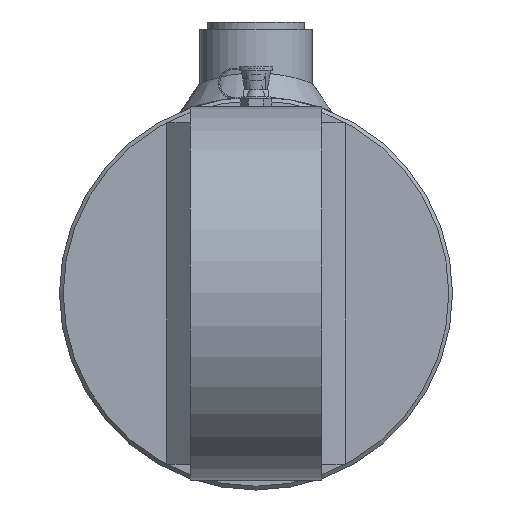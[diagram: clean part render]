
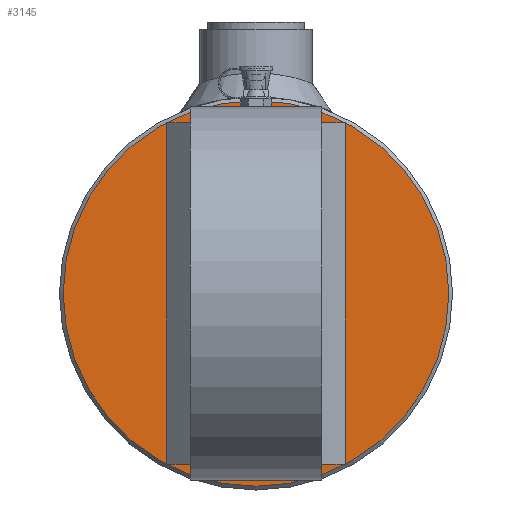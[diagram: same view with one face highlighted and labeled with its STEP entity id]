
A CAD part, left-side view. The second image highlights one B-rep face of the part: STEP entity #3145.
In plain terms, the highlighted planar face has unit normal (-1, 0, 0).
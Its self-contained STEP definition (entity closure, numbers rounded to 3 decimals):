
#3145 = ADVANCED_FACE( '', ( #7955 ), #7956, .T. );
#7955 = FACE_OUTER_BOUND( '', #9961, .T. );
#7956 = PLANE( '', #9962 );
#9961 = EDGE_LOOP( '', ( #10853 ) );
#9962 = AXIS2_PLACEMENT_3D( '', #10854, #10855, #10856 );
#10853 = ORIENTED_EDGE( '', *, *, #12045, .T. );
#10854 = CARTESIAN_POINT( '', ( -15., 0., 0. ) );
#10855 = DIRECTION( '', ( -1., 0., 0. ) );
#10856 = DIRECTION( '', ( 0., -1., 0. ) );
#12045 = EDGE_CURVE( '', #14865, #14865, #14866, .T. );
#14865 = VERTEX_POINT( '', #15877 );
#14866 = CIRCLE( '', #15878, 51.5 );
#15877 = CARTESIAN_POINT( '', ( -15., -51.5, 0. ) );
#15878 = AXIS2_PLACEMENT_3D( '', #16055, #16056, #16057 );
#16055 = CARTESIAN_POINT( '', ( -15., 0., 0. ) );
#16056 = DIRECTION( '', ( -1., 0., 0. ) );
#16057 = DIRECTION( '', ( 0., -1., 0. ) );
